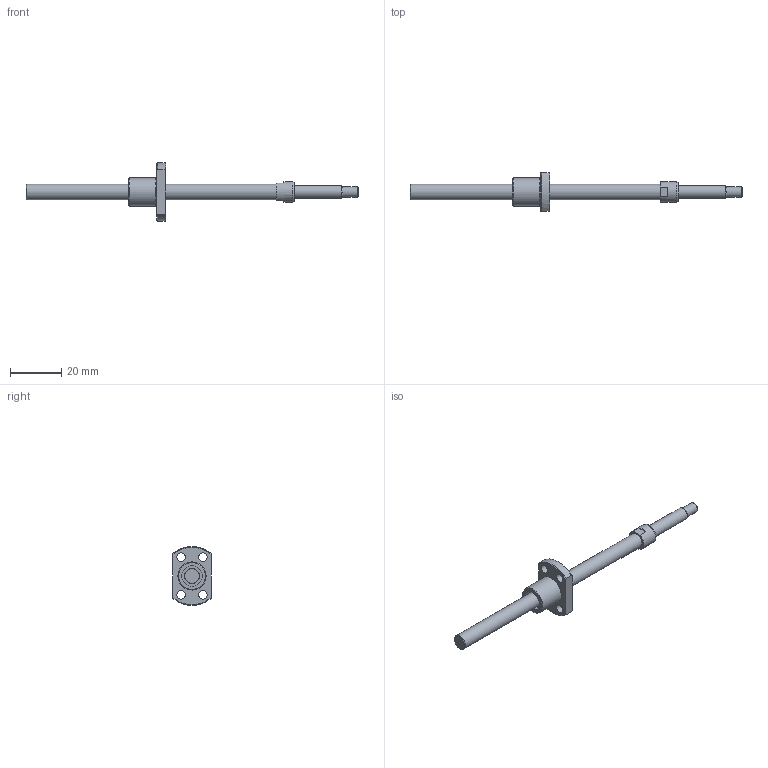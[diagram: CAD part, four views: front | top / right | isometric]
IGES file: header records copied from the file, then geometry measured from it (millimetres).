
Start section: Data from Parasolid IGES Translator 26.0.171, Copyright(c) 2006 Siemens PLM Software. All Rights Reserved.
Global section: file name: BNK0601-3G0+130LC5Y(54.75).igs; native system: By Siemens PLM Incorporated; preprocessor: XPlus GENERIC/IGES 26.0.171; author: Noname; organization: Noname; date: 20240709.081613; units: millimetre
Bounding box: 130 x 15 x 23 mm (x, y, z)
Surface area: 4071.3 mm2 (no closed solid volume)
Topology: 0 solids, 0 shells, 45 faces, 202 edges, 175 vertices
Faces by surface type: revolution 28, extrusion 17
